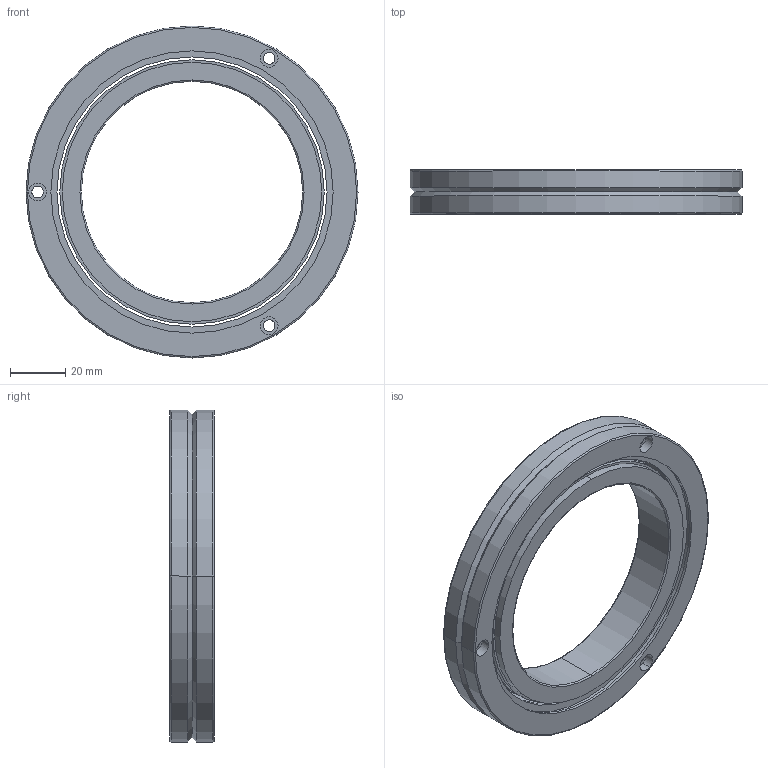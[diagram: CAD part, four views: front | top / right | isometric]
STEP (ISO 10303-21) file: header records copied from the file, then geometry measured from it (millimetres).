
FILE_DESCRIPTION((''),'2;1');
FILE_NAME('RB8016','2014-12-22T',('Administrator'),(''),'PRO/ENGINEER BY PARAMETRIC TECHNOLOGY CORPORATION, 2010180','PRO/ENGINEER BY PARAMETRIC TECHNOLOGY CORPORATION, 2010180','');
FILE_SCHEMA(('AUTOMOTIVE_DESIGN_CC2 { 1 2 10303 214 -1 1 5 2 }'));
Length unit declared in the file: millimetre
Products named in the file (1): RB8016
Bounding box: 120 x 16 x 120 mm (x, y, z)
Volume: 80689.5 mm3; surface area: 35077.7 mm2
Topology: 2 solids, 2 shells, 80 faces, 166 edges, 102 vertices
Faces by surface type: cylinder 44, plane 16, cone 12, torus 8
Entity records: 2263 total; most frequent: DIRECTION 436, CARTESIAN_POINT 348, ORIENTED_EDGE 332, AXIS2_PLACEMENT_3D 190, EDGE_CURVE 166, CIRCLE 110, VERTEX_POINT 102, EDGE_LOOP 102
